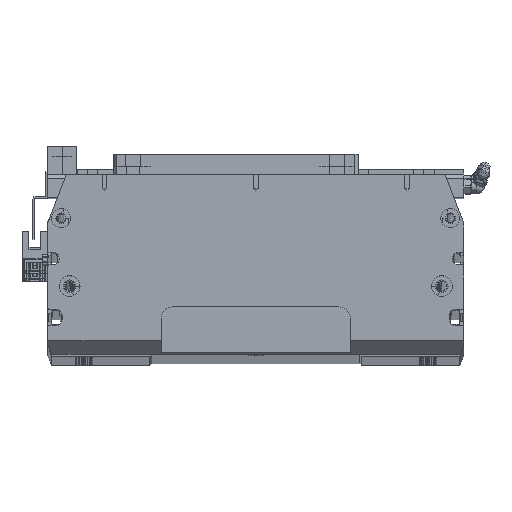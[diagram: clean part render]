
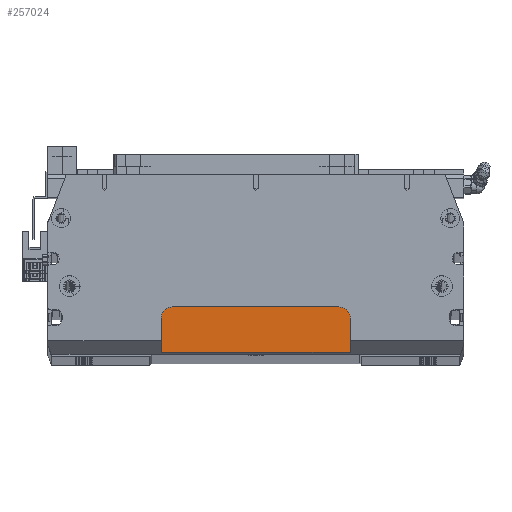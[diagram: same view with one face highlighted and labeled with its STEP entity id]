
A CAD part, top view. The second image highlights one B-rep face of the part: STEP entity #257024.
In plain terms, the highlighted planar face has unit normal (0, 0, 1) as drawn and (0, 1, 0) by its records, which use the part's own axes.
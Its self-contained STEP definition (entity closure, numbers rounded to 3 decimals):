
#8133 = VERTEX_POINT ( 'NONE', #351520 ) ;
#12052 = CARTESIAN_POINT ( 'NONE',  ( 44., 8., 33.25 ) ) ;
#14478 = EDGE_CURVE ( 'NONE', #364408, #279556, #259623, .T. ) ;
#21292 = CARTESIAN_POINT ( 'NONE',  ( 0., 8., 0. ) ) ;
#34810 = EDGE_CURVE ( 'NONE', #186280, #8133, #199169, .T. ) ;
#43755 = AXIS2_PLACEMENT_3D ( 'NONE', #21292, #96136, #236505 ) ;
#55327 = CARTESIAN_POINT ( 'NONE',  ( -50., 8., 33.25 ) ) ;
#55600 = PLANE ( 'NONE',  #43755 ) ;
#60775 = VECTOR ( 'NONE', #313667, 1000. ) ;
#78172 = EDGE_LOOP ( 'NONE', ( #136687, #444131, #206312, #446407, #266851, #383748 ) ) ;
#83455 = VERTEX_POINT ( 'NONE', #216263 ) ;
#84473 = FACE_OUTER_BOUND ( 'NONE', #78172, .T. ) ;
#86265 = CARTESIAN_POINT ( 'NONE',  ( 50., 8., 58.25 ) ) ;
#87479 = AXIS2_PLACEMENT_3D ( 'NONE', #235477, #202729, #344601 ) ;
#96136 = DIRECTION ( 'NONE',  ( 0., -1., 0. ) ) ;
#98595 = CARTESIAN_POINT ( 'NONE',  ( 110., 8., 57.25 ) ) ;
#136687 = ORIENTED_EDGE ( 'NONE', *, *, #14478, .T. ) ;
#150417 = EDGE_CURVE ( 'NONE', #83455, #186280, #276954, .T. ) ;
#153770 = CIRCLE ( 'NONE', #288910, 6. ) ;
#181708 = VERTEX_POINT ( 'NONE', #12052 ) ;
#186280 = VERTEX_POINT ( 'NONE', #251484 ) ;
#193401 = EDGE_CURVE ( 'NONE', #181708, #83455, #444584, .T. ) ;
#199169 = LINE ( 'NONE', #416348, #344101 ) ;
#201022 = EDGE_CURVE ( 'NONE', #279556, #181708, #153770, .T. ) ;
#202729 = DIRECTION ( 'NONE',  ( 0., 1., 0. ) ) ;
#206312 = ORIENTED_EDGE ( 'NONE', *, *, #193401, .T. ) ;
#216263 = CARTESIAN_POINT ( 'NONE',  ( -44., 8., 33.25 ) ) ;
#220323 = DIRECTION ( 'NONE',  ( 0., 0., -1. ) ) ;
#233944 = LINE ( 'NONE', #98595, #60775 ) ;
#235477 = CARTESIAN_POINT ( 'NONE',  ( -44., 8., 39.25 ) ) ;
#236505 = DIRECTION ( 'NONE',  ( 0., 0., -1. ) ) ;
#237011 = DIRECTION ( 'NONE',  ( 0., 0., 1. ) ) ;
#251484 = CARTESIAN_POINT ( 'NONE',  ( -50., 8., 39.25 ) ) ;
#253100 = DIRECTION ( 'NONE',  ( 0., 1., 0. ) ) ;
#257024 = ADVANCED_FACE ( 'NONE', ( #84473 ), #55600, .F. ) ;
#259623 = LINE ( 'NONE', #86265, #438228 ) ;
#266851 = ORIENTED_EDGE ( 'NONE', *, *, #34810, .T. ) ;
#276954 = CIRCLE ( 'NONE', #87479, 6. ) ;
#279556 = VERTEX_POINT ( 'NONE', #339935 ) ;
#287410 = CARTESIAN_POINT ( 'NONE',  ( 44., 8., 39.25 ) ) ;
#288910 = AXIS2_PLACEMENT_3D ( 'NONE', #287410, #253100, #220323 ) ;
#313667 = DIRECTION ( 'NONE',  ( -1., 0., 0. ) ) ;
#337240 = DIRECTION ( 'NONE',  ( 0., 0., -1. ) ) ;
#339935 = CARTESIAN_POINT ( 'NONE',  ( 50., 8., 39.25 ) ) ;
#344101 = VECTOR ( 'NONE', #237011, 1000. ) ;
#344601 = DIRECTION ( 'NONE',  ( 0., 0., -1. ) ) ;
#351520 = CARTESIAN_POINT ( 'NONE',  ( -50., 8., 57.25 ) ) ;
#364043 = DIRECTION ( 'NONE',  ( -1., 0., 0. ) ) ;
#364408 = VERTEX_POINT ( 'NONE', #442323 ) ;
#383748 = ORIENTED_EDGE ( 'NONE', *, *, #457917, .F. ) ;
#394500 = VECTOR ( 'NONE', #364043, 1000. ) ;
#416348 = CARTESIAN_POINT ( 'NONE',  ( -50., 8., 58.25 ) ) ;
#438228 = VECTOR ( 'NONE', #337240, 1000. ) ;
#442323 = CARTESIAN_POINT ( 'NONE',  ( 50., 8., 57.25 ) ) ;
#444131 = ORIENTED_EDGE ( 'NONE', *, *, #201022, .T. ) ;
#444584 = LINE ( 'NONE', #55327, #394500 ) ;
#446407 = ORIENTED_EDGE ( 'NONE', *, *, #150417, .T. ) ;
#457917 = EDGE_CURVE ( 'NONE', #364408, #8133, #233944, .T. ) ;
